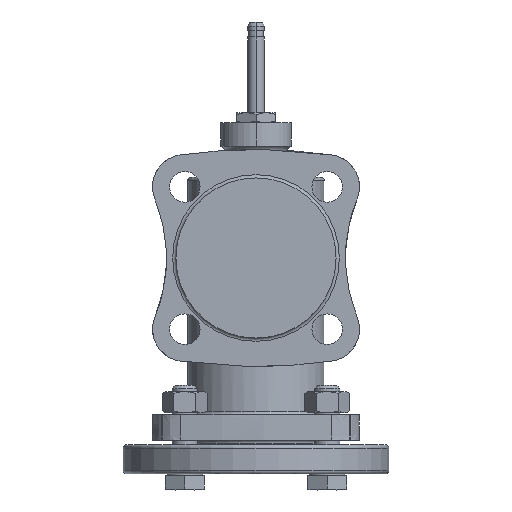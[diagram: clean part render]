
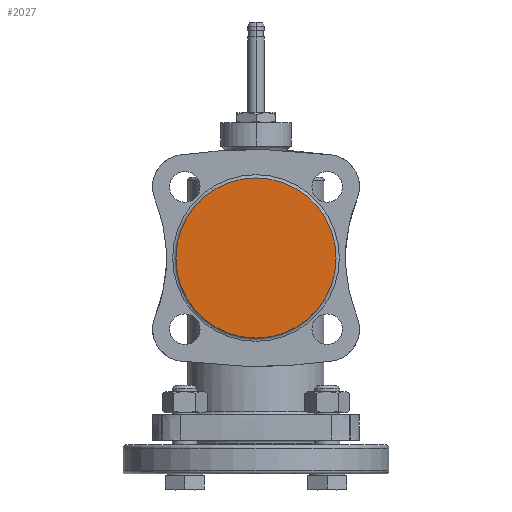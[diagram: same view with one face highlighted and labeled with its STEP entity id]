
A CAD part, left-side view. The second image highlights one B-rep face of the part: STEP entity #2027.
In plain terms, the highlighted planar face has unit normal (-1, 0, 0).
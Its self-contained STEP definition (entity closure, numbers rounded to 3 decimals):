
#1464=FACE_OUTER_BOUND('',#2986,.T.);
#2027=ADVANCED_FACE('',(#1464),#2342,.T.);
#2342=PLANE('',#6184);
#2986=EDGE_LOOP('',(#3552));
#3552=ORIENTED_EDGE('',*,*,#5322,.F.);
#4865=VERTEX_POINT('',#9584);
#5322=EDGE_CURVE('',#4865,#4865,#5897,.T.);
#5897=CIRCLE('',#6182,49.7);
#6182=AXIS2_PLACEMENT_3D('',#9583,#6851,#6852);
#6184=AXIS2_PLACEMENT_3D('',#9586,#6855,#6856);
#6851=DIRECTION('',(1.,0.,0.));
#6852=DIRECTION('',(0.,0.,-1.));
#6855=DIRECTION('',(-1.,0.,0.));
#6856=DIRECTION('',(0.,0.,-1.));
#9583=CARTESIAN_POINT('',(115.,0.,0.));
#9584=CARTESIAN_POINT('',(115.,0.,-49.7));
#9586=CARTESIAN_POINT('',(115.,0.,0.));
